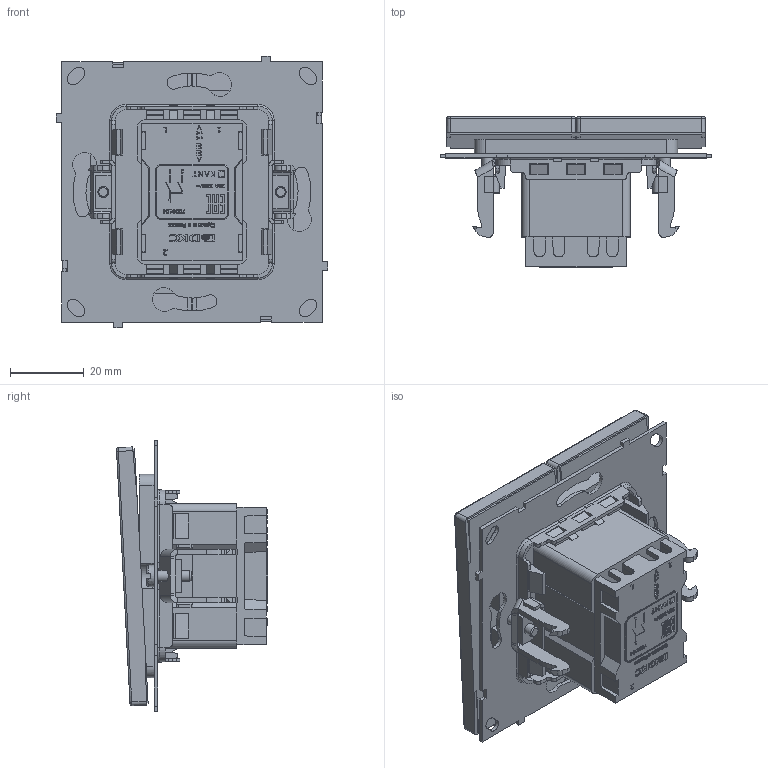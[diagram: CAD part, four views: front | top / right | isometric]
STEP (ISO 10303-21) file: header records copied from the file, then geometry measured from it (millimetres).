
FILE_DESCRIPTION (( 'STEP AP203' ), '1' );
FILE_NAME ('7000104.STEP', '2025-10-24T07:02:39', ( '' ), ( '' ), 'SwSTEP 2.0', 'SolidWorks 2022', '' );
FILE_SCHEMA (( 'CONFIG_CONTROL_DESIGN' ));
Length unit declared in the file: millimetre
Products named in the file (1): 7000104
Bounding box: 73.5 x 40.88 x 73.5 mm (x, y, z)
Volume: 69585.7 mm3; surface area: 29050.1 mm2
Topology: 3 solids, 3 shells, 1605 faces, 4456 edges, 2917 vertices
Faces by surface type: plane 1027, bspline 330, cylinder 214, torus 22, cone 12
Full cylindrical faces by diameter (mm): 3 x4, 3.3 x2
Entity records: 62622 total; most frequent: CARTESIAN_POINT 23515, ORIENTED_EDGE 8874, DIRECTION 6719, EDGE_CURVE 4437, VECTOR 3231, LINE 3231, VERTEX_POINT 2910, EDGE_LOOP 1753
